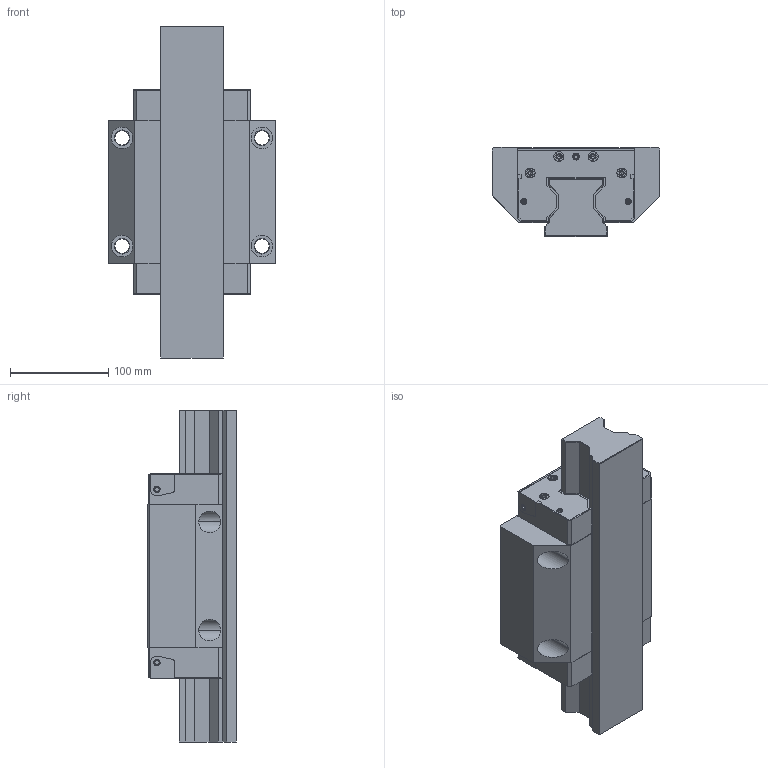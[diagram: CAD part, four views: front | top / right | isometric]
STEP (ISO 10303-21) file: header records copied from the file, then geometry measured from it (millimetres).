
FILE_DESCRIPTION((''),'2;1');
FILE_NAME('R1851_SIZE65_ASM','2021-07-06T04:28:41',('ac91sw'),(''),'CREO PARAMETRIC BY PTC INC, 2020044','CREO PARAMETRIC BY PTC INC, 2020044','');
FILE_SCHEMA(('AUTOMOTIVE_DESIGN { 1 0 10303 214 1 1 1 1 }'));
Length unit declared in the file: millimetre
Products named in the file (6): R1851_SIZE65_SKEL; R185162501; R185160702_Z; R913034226_Z; R1851_SIZE65_PSF; R1851_SIZE65_ASM
Assembly tree (11 placements, depth 2):
  R1851_SIZE65_ASM
    R1851_SIZE65_SKEL
    R185162501
    R185160702_Z  x2
    R913034226_Z  x6
    R1851_SIZE65_PSF
Bounding box: 170 x 90 x 337.3 mm (x, y, z)
Volume: 2542395.4 mm3; surface area: 311552.1 mm2
Topology: 10 solids, 30 shells, 594 faces, 1502 edges, 958 vertices
Faces by surface type: plane 344, cylinder 170, cone 80
Entity records: 16555 total; most frequent: CARTESIAN_POINT 2197, DIRECTION 1744, ORIENTED_EDGE 1628, EDGE_CURVE 836, PROPERTY_DEFINITION 698, REPRESENTATION 691, PROPERTY_DEFINITION_REPRESENTATION 691, DESCRIPTIVE_REPRESENTATION_ITEM 642
